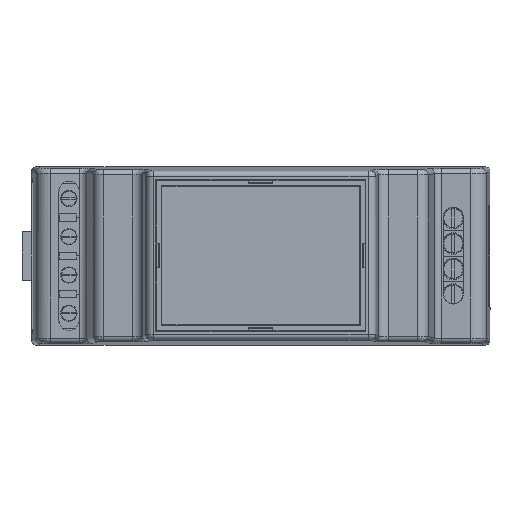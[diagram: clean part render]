
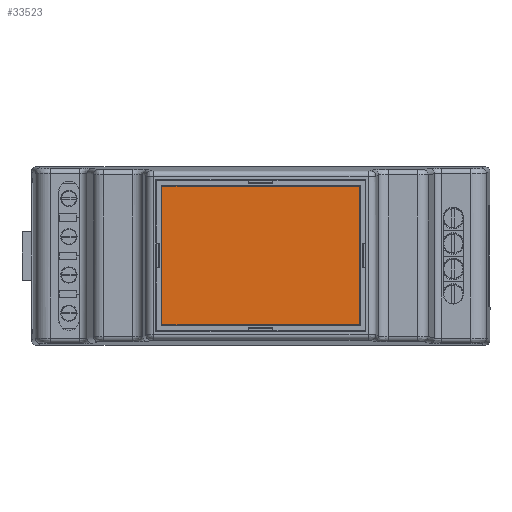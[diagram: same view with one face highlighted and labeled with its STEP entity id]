
A CAD part, top view. The second image highlights one B-rep face of the part: STEP entity #33523.
In plain terms, the highlighted planar face has unit normal (0, 0, 1).
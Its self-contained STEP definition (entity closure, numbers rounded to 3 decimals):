
#3596=PLANE('',#35790);
#5414=FACE_OUTER_BOUND('',#7288,.T.);
#7288=EDGE_LOOP('',(#30435,#30436,#30437,#30438));
#10633=LINE('',#57611,#14053);
#10636=LINE('',#57617,#14056);
#10639=LINE('',#57623,#14059);
#10642=LINE('',#57627,#14062);
#14053=VECTOR('',#42654,10.);
#14056=VECTOR('',#42659,10.);
#14059=VECTOR('',#42664,10.);
#14062=VECTOR('',#42669,10.);
#17478=VERTEX_POINT('',#57608);
#17479=VERTEX_POINT('',#57610);
#17481=VERTEX_POINT('',#57616);
#17483=VERTEX_POINT('',#57622);
#21896=EDGE_CURVE('',#17479,#17478,#10633,.T.);
#21899=EDGE_CURVE('',#17481,#17479,#10636,.T.);
#21902=EDGE_CURVE('',#17483,#17481,#10639,.T.);
#21905=EDGE_CURVE('',#17478,#17483,#10642,.T.);
#30435=ORIENTED_EDGE('',*,*,#21905,.T.);
#30436=ORIENTED_EDGE('',*,*,#21902,.T.);
#30437=ORIENTED_EDGE('',*,*,#21899,.T.);
#30438=ORIENTED_EDGE('',*,*,#21896,.T.);
#33523=ADVANCED_FACE('',(#5414),#3596,.T.);
#35790=AXIS2_PLACEMENT_3D('',#57629,#42672,#42673);
#42654=DIRECTION('',(0.,-1.,0.));
#42659=DIRECTION('',(-1.,0.,0.));
#42664=DIRECTION('',(0.,1.,0.));
#42669=DIRECTION('',(1.,0.,0.));
#42672=DIRECTION('center_axis',(0.,0.,1.));
#42673=DIRECTION('ref_axis',(1.,0.,0.));
#57608=CARTESIAN_POINT('',(-19.383,-13.633,0.4));
#57610=CARTESIAN_POINT('',(-19.383,13.633,0.4));
#57611=CARTESIAN_POINT('',(-19.383,-13.633,0.4));
#57616=CARTESIAN_POINT('',(19.383,13.633,0.4));
#57617=CARTESIAN_POINT('',(-19.383,13.633,0.4));
#57622=CARTESIAN_POINT('',(19.383,-13.633,0.4));
#57623=CARTESIAN_POINT('',(19.383,13.633,0.4));
#57627=CARTESIAN_POINT('',(19.383,-13.633,0.4));
#57629=CARTESIAN_POINT('Origin',(0.,0.,
0.4));
